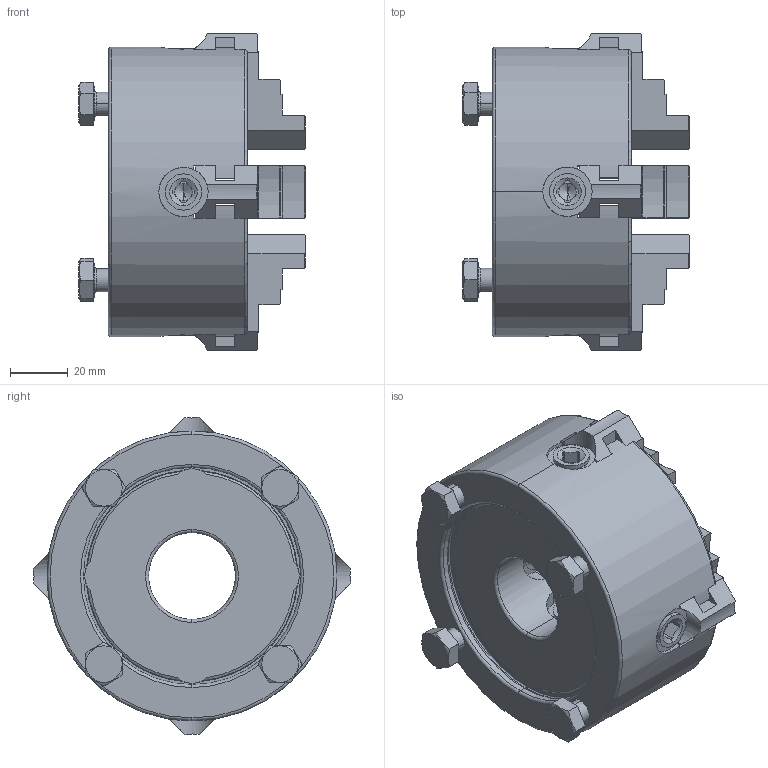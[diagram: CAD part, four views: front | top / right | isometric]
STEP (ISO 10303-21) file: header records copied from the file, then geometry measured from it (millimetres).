
FILE_DESCRIPTION (( 'STEP AP214' ), '1' );
FILE_NAME ('IC-04_61T355668-2.STEP', '2025-11-12T06:25:58', ( '' ), ( '' ), 'SwSTEP 2.0', 'SolidWorks 2022', '' );
FILE_SCHEMA (( 'AUTOMOTIVE_DESIGN' ));
Length unit declared in the file: millimetre
Products named in the file (4): IC-4_ホンタイ提出用; 0011108025; IC-04_61T355668-2; P42881-0_ツメ
Assembly tree (9 placements, depth 2):
  IC-04_61T355668-2
    P42881-0_ツメ  x4
    IC-4_ホンタイ提出用
    0011108025  x4
Bounding box: 78.14 x 109.51 x 109.51 mm (x, y, z)
Volume: 352973.6 mm3; surface area: 69640.5 mm2
Topology: 9 solids, 9 shells, 842 faces, 2240 edges, 1454 vertices
Faces by surface type: plane 478, cylinder 158, cone 94, bspline 84, torus 28
Entity records: 24237 total; most frequent: CARTESIAN_POINT 8081, ORIENTED_EDGE 3512, DIRECTION 2990, EDGE_CURVE 1756, VERTEX_POINT 1148, VECTOR 1082, LINE 1082, AXIS2_PLACEMENT_3D 954
